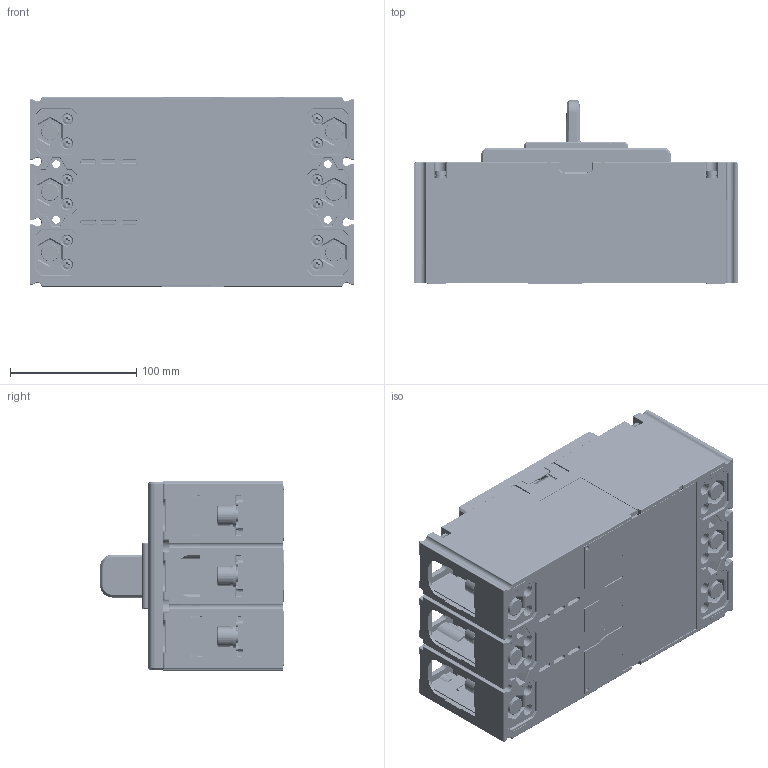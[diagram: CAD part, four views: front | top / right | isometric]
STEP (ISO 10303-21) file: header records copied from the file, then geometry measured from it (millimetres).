
FILE_DESCRIPTION((''),'2;1');
FILE_NAME('CD3MV-630F-3300-630A_ASM_1_ASM','2022-12-05T',('ling.zeng'),(''),'PRO/ENGINEER BY PARAMETRIC TECHNOLOGY CORPORATION, 2015440','PRO/ENGINEER BY PARAMETRIC TECHNOLOGY CORPORATION, 2015440','');
FILE_SCHEMA(('CONFIG_CONTROL_DESIGN'));
Products named in the file (64): PRT0075_1; PRT0076_1; ASM0015_ASM_1_ASM; PRT0077_1; PRT0078_1; ASM0016_ASM_1_ASM; PRT0086_1; PRT0087_1; PRT0088_1; PRT0089_1; ASM0021_ASM_1_ASM; PRT0093_1; ASM0022_ASM_1_ASM; PRT0094_1; PRT0095_1; ASM0023_ASM_1_ASM; ASM0019_ASM_1_ASM; ASM0017_ASM_1_ASM; ASM0026_ASM_1; ASM0025_ASM_1_ASM; ASM0027_ASM_1; ASM0024_ASM_1_ASM; ASM0028_ASM_1; PRT0137_1; 7080100022_GB_T6170_M3_R_2_1; PRT0140_1; PRT0141_1; PRT0142_1; ASM0029_ASM_1_ASM; PRT0143_1; 7090300401K_GB_T93_4_2_1; GB_T97_4-4_2_1; ASM0030_ASM_1_ASM; ASM0014_ASM_1_ASM; PRT0151_1; PRT0152_1; PRT0153_1; PRT0154_1; ASM0032_ASM_1_ASM; PRT0156_1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
Assembly tree (118 placements, depth 7):
  CD3MV-630F-3300-630A_ASM_1_ASM
    ASM0013_ASM_1_ASM
      ASM0014_ASM_1_ASM
        ASM0015_ASM_1_ASM
          PRT0075_1
          PRT0076_1  x6
        PRT0077_1  x6
        ASM0016_ASM_1_ASM  x3
          PRT0078_1
        ASM0017_ASM_1_ASM
          ASM0019_ASM_1_ASM  x3
            PRT0086_1
            PRT0087_1
            ASM0021_ASM_1_ASM
              PRT0088_1
              PRT0089_1
            ASM0022_ASM_1_ASM
              PRT0093_1
            ASM0023_ASM_1_ASM
              PRT0094_1
              PRT0095_1
        ASM0024_ASM_1_ASM
          ASM0025_ASM_1_ASM
            ASM0026_ASM_1
          ASM0027_ASM_1
        ASM0028_ASM_1
        PRT0137_1  x3
        7080100022_GB_T6170_M3_R_2_1  x3
        ASM0029_ASM_1_ASM  x3
          PRT0140_1
          PRT0141_1
          PRT0142_1
        ASM0030_ASM_1_ASM  x15
          PRT0143_1
          7090300401K_GB_T93_4_2_1
          GB_T97_4-4_2_1
      PRT0151_1  x3
      ASM0032_ASM_1_ASM
        PRT0152_1
        PRT0153_1
        PRT0154_1
      PRT0156_1  x3
      ASM0033_ASM_1_ASM  x6
        PRT0157_1
        PRT0158_1
        PRT0159_1
      ASM0034_ASM_1_ASM
        ASM0035_ASM_1_ASM
          PRT0160_1
          PRT0161_1  x4
        PRT0162_1
        PRT0163_1
      ASM0036_ASM_1_ASM  x6
        PRT0164_1
        PRT0165_1
        PRT0166_1
      PRT0167_1
      ASM0037_ASM_1_ASM  x4
        PRT0168_1
        PRT0169_1
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Bounding box: 257 x 145.8 x 150 mm (x, y, z)
Volume: 1489804.7 mm3; surface area: 730923.9 mm2
Topology: 169 solids, 244 shells, 9478 faces, 24604 edges, 15563 vertices
Faces by surface type: plane 5362, cylinder 2701, torus 457, cone 424, extrusion 215, sphere 189, bspline 130
Entity records: 237407 total; most frequent: CARTESIAN_POINT 56593, ORIENTED_EDGE 38000, DIRECTION 36659, EDGE_CURVE 19036, VECTOR 13357, LINE 13142, VERTEX_POINT 12195, AXIS2_PLACEMENT_3D 11651
